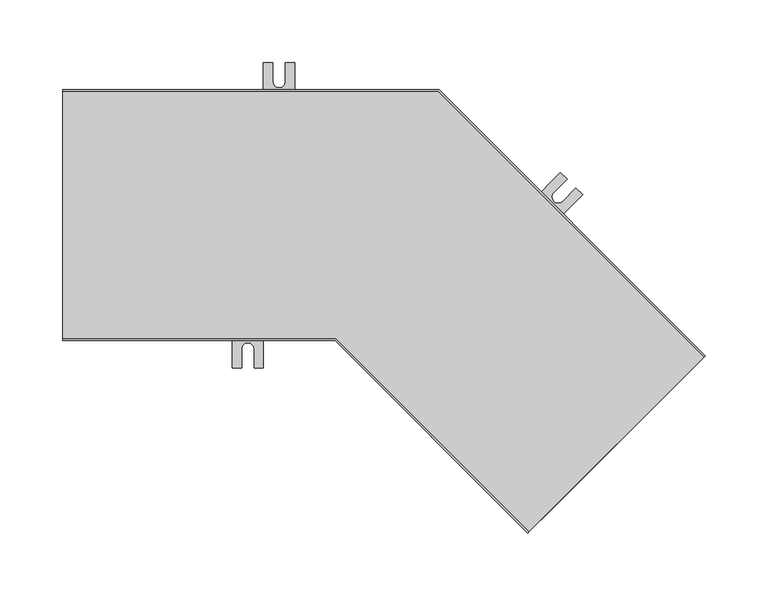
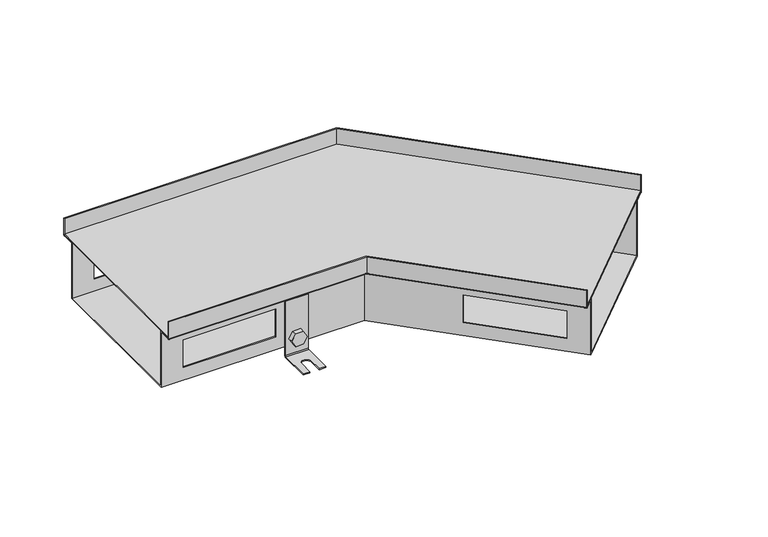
"""IFC4 building model written with IfcOpenShell, lengths in millimetres: proxy geometry, TECHNO_Угловой элемент_KVU : 200_085_135°."""

import ifcopenshell
import ifcopenshell.guid

model = None  # the IFC model being written
_history = None  # IfcOwnerHistory: only IFC2X3 demands one
_inside = {}  # id of a spatial element -> (the spatial element, [elements in it])
_under = {}  # id of a project, library or spatial element -> (it, [spatial elements below it])
_declared = {}  # id of a project -> (the project, [libraries it declares])
_typed = {}  # id of a type object -> (the type object, [elements of that type])
_made_of = {}  # id of a material, layer set ... -> (it, [elements and type objects made of it])


def new_model(schema):
    """Start an empty IFC model of exactly this schema.

    Asked for "IFC4X3", IfcOpenShell would pick the latest addendum, in which some entities
    have other attributes; the version numbers below select the first issue.
    IFC2X3 requires an IfcOwnerHistory on every rooted entity: one is made here for all.
    """
    global model, _history
    if schema == "IFC4X3":
        model = ifcopenshell.file(schema_version=(4, 3, 0, 0))
    else:
        model = ifcopenshell.file(schema=schema)
    _inside.clear()
    _under.clear()
    _declared.clear()
    _typed.clear()
    _made_of.clear()
    _history = None
    if model.schema == "IFC2X3":
        org = make("IfcOrganization", Name="unknown")
        user = make(
            "IfcPersonAndOrganization",
            ThePerson=make("IfcPerson", FamilyName="unknown"),
            TheOrganization=org,
        )
        app = make(
            "IfcApplication",
            ApplicationDeveloper=org,
            Version="unknown",
            ApplicationFullName="unknown",
            ApplicationIdentifier="unknown",
        )
        _history = make(
            "IfcOwnerHistory",
            OwningUser=user,
            OwningApplication=app,
            ChangeAction="ADDED",
            CreationDate=0,
        )
    return model


def make(cls, **values):
    """One entity of the class cls with the attributes given. An attribute that is None is left unset."""
    return model.create_entity(
        cls, **{name: value for name, value in values.items() if value is not None}
    )


def rooted(cls, **values):
    """An entity with a GlobalId (a new one), such as an element, a storey or a relation."""
    return make(cls, GlobalId=ifcopenshell.guid.new(), OwnerHistory=_history, **values)


def si_unit(unit_type, name, prefix=None):
    """IfcSIUnit, for example si_unit("LENGTHUNIT", "METRE", prefix="MILLI")."""
    return make("IfcSIUnit", UnitType=unit_type, Prefix=prefix, Name=name)


def assignment(units):
    """IfcUnitAssignment: the units of a project."""
    return None if units is None else make("IfcUnitAssignment", Units=units)


def point(xyz):
    """IfcCartesianPoint."""
    return None if xyz is None else make("IfcCartesianPoint", Coordinates=xyz)


def direction(xyz):
    """IfcDirection."""
    return None if xyz is None else make("IfcDirection", DirectionRatios=xyz)


def frame(location, z_axis=None, x_axis=None):
    """IfcAxis2Placement3D, a coordinate frame: its origin and axes. An axis left out is left unset."""
    return make(
        "IfcAxis2Placement3D",
        Location=point(location),
        Axis=direction(z_axis),
        RefDirection=direction(x_axis),
    )


def frame_2d(location, x_axis=None):
    """IfcAxis2Placement2D, a coordinate frame in the plane: its origin and x axis."""
    return make(
        "IfcAxis2Placement2D", Location=point(location), RefDirection=direction(x_axis)
    )


def origin():
    """The frame at (0, 0, 0) with its axes left unset."""
    return frame((0.0, 0.0, 0.0))


def place(relative_to, where):
    """IfcLocalPlacement: puts the frame where relative to a parent placement (None: the world)."""
    return make(
        "IfcLocalPlacement", PlacementRelTo=relative_to, RelativePlacement=where
    )


def context(
    kind, dimensions, precision=None, world=None, true_north=None, identifier=None
):
    """IfcGeometricRepresentationContext, for example the 3D "Model" context."""
    return make(
        "IfcGeometricRepresentationContext",
        ContextIdentifier=identifier,
        ContextType=kind,
        CoordinateSpaceDimension=dimensions,
        Precision=precision,
        WorldCoordinateSystem=world,
        TrueNorth=true_north,
    )


def project(units=None, contexts=None):
    """IfcProject with its units and contexts."""
    return rooted(
        "IfcProject",
        Name="project",
        RepresentationContexts=contexts,
        UnitsInContext=assignment(units),
    )


def spatial(cls, under=None, at=None, **own):
    """A site, building, storey or space (cls), placed at a placement, below another one or the project."""
    s = rooted(cls, ObjectPlacement=at, **own)
    if under is not None:
        _under.setdefault(under.id(), (under, []))[1].append(s)
    return s


def polyline(points):
    """IfcPolyline through the points."""
    return make("IfcPolyline", Points=[point(p) for p in points])


def circle_curve(where, radius):
    """IfcCircle in the frame where."""
    return make("IfcCircle", Position=where, Radius=radius)


def ellipse_curve(where, semi_axis1, semi_axis2):
    """IfcEllipse in the frame where."""
    return make(
        "IfcEllipse", Position=where, SemiAxis1=semi_axis1, SemiAxis2=semi_axis2
    )


def trimmed(basis, trim1, trim2, sense, master):
    """IfcTrimmedCurve: the piece of a basis curve between two trims."""
    return make(
        "IfcTrimmedCurve",
        BasisCurve=basis,
        Trim1=trim1,
        Trim2=trim2,
        SenseAgreement=sense,
        MasterRepresentation=master,
    )


def segment(curve, same_sense, transition):
    """IfcCompositeCurveSegment."""
    return make(
        "IfcCompositeCurveSegment",
        Transition=transition,
        SameSense=same_sense,
        ParentCurve=curve,
    )


def composite_curve(segments, self_intersect=None):
    """IfcCompositeCurve: segments joined end to end."""
    return make("IfcCompositeCurve", Segments=segments, SelfIntersect=self_intersect)


def outline(outer, holes=None, kind="AREA"):
    """IfcArbitraryClosedProfileDef: a profile drawn as a closed curve; with holes, ...WithVoids."""
    if holes is None:
        return make("IfcArbitraryClosedProfileDef", ProfileType=kind, OuterCurve=outer)
    return make(
        "IfcArbitraryProfileDefWithVoids",
        ProfileType=kind,
        OuterCurve=outer,
        InnerCurves=holes,
    )


def extrude(swept, where, along, depth):
    """IfcExtrudedAreaSolid: the profile swept, set in the frame where, extruded along a direction by depth."""
    return make(
        "IfcExtrudedAreaSolid",
        SweptArea=swept,
        Position=where,
        ExtrudedDirection=direction(along),
        Depth=depth,
    )


def shape(context_of_items, identifier, shape_type, items):
    """IfcShapeRepresentation: the items that make up one representation, for example the "Body"."""
    return make(
        "IfcShapeRepresentation",
        ContextOfItems=context_of_items,
        RepresentationIdentifier=identifier,
        RepresentationType=shape_type,
        Items=items,
    )


def source(mapping_origin, context_of_items, identifier, shape_type, items):
    """IfcRepresentationMap: a shape defined once, which mapped items show again and again."""
    return make(
        "IfcRepresentationMap",
        MappingOrigin=mapping_origin,
        MappedRepresentation=shape(context_of_items, identifier, shape_type, items),
    )


def transform(
    local_origin,
    x_axis=None,
    y_axis=None,
    z_axis=None,
    scale=None,
    scale2=None,
    scale3=None,
    uniform=True,
):
    """IfcCartesianTransformationOperator3D, or its non-uniform kind. x_axis, y_axis, z_axis: its Axis1, 2, 3."""
    if uniform:
        return make(
            "IfcCartesianTransformationOperator3D",
            Axis1=direction(x_axis),
            Axis2=direction(y_axis),
            LocalOrigin=point(local_origin),
            Scale=scale,
            Axis3=direction(z_axis),
        )
    return make(
        "IfcCartesianTransformationOperator3DnonUniform",
        Axis1=direction(x_axis),
        Axis2=direction(y_axis),
        LocalOrigin=point(local_origin),
        Scale=scale,
        Axis3=direction(z_axis),
        Scale2=scale2,
        Scale3=scale3,
    )


def mapped(mapping_source, mapping_target):
    """IfcMappedItem: shows the shape of a source again, moved by a transform."""
    return make(
        "IfcMappedItem", MappingSource=mapping_source, MappingTarget=mapping_target
    )


def made_of(thing, what):
    """Note that an element or type object is made of a material, layer set ...; save() writes the relation."""
    if what is not None:
        _made_of.setdefault(what.id(), (what, []))[1].append(thing)
    return thing


def element(
    cls,
    number,
    at=None,
    inside=None,
    cuts=None,
    type_object=None,
    material=None,
    context=None,
    identifier="Body",
    shape_type=None,
    held_by="IfcProductDefinitionShape",
    body=None,
    shapes=None,
    **own,
):
    """One element of the class cls, such as IfcWall. Its Tag is "e" and its number.

    at: its placement. inside: the storey or other place that contains it. cuts: it is an
    opening in that element (IfcRelVoidsElement). A single representation is given by context,
    identifier, shape_type and body (its items); several are given by shapes. held_by: the class
    of the entity that holds the representations. save() writes the other relations.
    """
    e = rooted(cls, Tag="e%d" % number, ObjectPlacement=at, **own)
    if body is not None:
        shapes = [shape(context, identifier, shape_type, body)]
    if shapes is not None:
        e.Representation = make(held_by, Representations=shapes)
    if inside is not None:
        _inside.setdefault(inside.id(), (inside, []))[1].append(e)
    if cuts is not None:
        rooted(
            "IfcRelVoidsElement", RelatingBuildingElement=cuts, RelatedOpeningElement=e
        )
    if type_object is not None:
        _typed.setdefault(type_object.id(), (type_object, []))[1].append(e)
    return made_of(e, material)


def aggregate(whole, parts):
    """IfcRelAggregates: a whole, such as a stair, and the parts it consists of."""
    return rooted("IfcRelAggregates", RelatingObject=whole, RelatedObjects=parts)


def save(model, path):
    """Write the relations noted so far, then the file.

    IfcRelAggregates (storeys below a building ...), IfcRelContainedInSpatialStructure (elements
    in a storey), IfcRelDefinesByType, IfcRelAssociatesMaterial and IfcRelDeclares: one each for
    every whole, place, type object, material and project.
    """
    for whole, parts in _under.values():
        aggregate(whole, parts)
    for where, things in _inside.values():
        rooted(
            "IfcRelContainedInSpatialStructure",
            RelatedElements=things,
            RelatingStructure=where,
        )
    for kind, things in _typed.values():
        rooted("IfcRelDefinesByType", RelatedObjects=things, RelatingType=kind)
    for what, things in _made_of.values():
        rooted("IfcRelAssociatesMaterial", RelatedObjects=things, RelatingMaterial=what)
    for by, libraries in _declared.values():
        rooted("IfcRelDeclares", RelatingContext=by, RelatedDefinitions=libraries)
    model.write(path)


def plane_surface(at):
    """IfcPlane: the flat surface through the origin of the frame at, square to its z axis."""
    return make("IfcPlane", Position=at)


def cylinder_surface(at, radius):
    """IfcCylindricalSurface: all points at the distance radius from the z axis of the frame at."""
    return make("IfcCylindricalSurface", Position=at, Radius=radius)


def revolved_surface(curve, axis_point, axis_direction):
    """IfcSurfaceOfRevolution: the curve turned about the line through axis_point along axis_direction."""
    return make(
        "IfcSurfaceOfRevolution",
        SweptCurve=make("IfcArbitraryOpenProfileDef", ProfileType="CURVE", Curve=curve),
        AxisPosition=make("IfcAxis1Placement", Location=point(axis_point), Axis=direction(axis_direction)),
    )


def advanced_brep(points, edges, surfaces, faces):
    """IfcAdvancedBrep: a solid bounded by faces that lie on surfaces and meet in shared edges.

    An edge is (start, end): straight between two places in points (the first is 0);
    or (start, end, curve); or (start, end, curve, False) where it runs against its curve.
    A face is (place in surfaces, loops), or (place, loops, False) where it looks against
    its surface's normal. A loop lists edges by number (the first is 1), with a minus sign
    where the edge is run from its end to its start. The first loop is the outer one.
    """
    corners = [point(p) for p in points]
    vertices = [make("IfcVertexPoint", VertexGeometry=c) for c in corners]
    made = []
    for start, end, *more in edges:
        made.append(
            make(
                "IfcEdgeCurve",
                EdgeStart=vertices[start],
                EdgeEnd=vertices[end],
                EdgeGeometry=more[0] if more else make("IfcPolyline", Points=[corners[start], corners[end]]),
                SameSense=more[1] if len(more) > 1 else True,
            )
        )
    hull = []
    for where, loops, *sense in faces:
        bounds = []
        for j, loop in enumerate(loops):
            ring = [make("IfcOrientedEdge", EdgeElement=made[abs(k) - 1], Orientation=k > 0) for k in loop]
            bounds.append(
                make(
                    "IfcFaceOuterBound" if j == 0 else "IfcFaceBound",
                    Bound=make("IfcEdgeLoop", EdgeList=ring),
                    Orientation=True,
                )
            )
        hull.append(make("IfcAdvancedFace", Bounds=bounds, FaceSurface=surfaces[where], SameSense=sense[0] if sense else True))
    return make("IfcAdvancedBrep", Outer=make("IfcClosedShell", CfsFaces=hull))


def mechanical_equipment_570afbbc(model_context):
    return source(origin(), model_context, "Body", "SolidModel", [
        extrude(outline(composite_curve([segment(trimmed(circle_curve(frame_2d((0.0, -7.4999999)), 7.5), [point((0.0, -15.0))], [point((0.0, 0.0))], False, "CARTESIAN"), True, "CONTINUOUS"), segment(trimmed(circle_curve(frame_2d((0.0, -7.4999999)), 7.5), [point((0.0, 0.0))], [point((0.0, -15.0))], False, "CARTESIAN"), True, "CONTINUOUS")], self_intersect=False)), frame((370.6399674, -55.6342025, -75.5), z_axis=(0.7071067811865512, 0.7071067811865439, 0.0), x_axis=(0.0, 0.0, 1.0)), (0.0, 0.0, 1.0), 1.5),
        extrude(outline(polyline([(0.0, 0.0), (8.6602541, 0.0), (12.9903811, -7.5), (8.6602541, -15.0), (0.0, -15.0), (-4.330127, -7.5), (0.0, 0.0)])), frame((354.7581695, -48.66195, -75.5), z_axis=(0.7071067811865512, 0.7071067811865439, 0.0), x_axis=(0.3535533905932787, -0.3535533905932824, -0.8660254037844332)), (0.0, 0.0, 1.0), 5.1),
        advanced_brep(
        [(373.3269732, -60.0182646, -30.5), (373.3269732, -60.0182646, -93.5), (372.7612878, -60.58395, -94.3), (349.426764, -83.9184738, -94.3), (349.426764, -83.9184738, -95.5), (372.7612878, -60.58395, -95.5), (374.1755013, -59.1697364, -93.5), (374.1755013, -59.1697364, -30.5), (355.6493037, -42.3405951, -30.5), (356.4978318, -41.4920669, -30.5), (356.4978318, -41.4920669, -93.5), (355.0836183, -42.9062805, -95.5), (331.7490945, -66.2408043, -95.5), (331.7490945, -66.2408043, -94.3), (355.0836183, -42.9062805, -94.3), (355.6493037, -42.3405951, -93.5), (337.0523953, -71.5441051, -94.3), (347.6589971, -60.9375034, -94.3), (354.7300649, -68.0085712, -94.3), (344.1234631, -78.6151729, -94.3), (344.1234631, -78.6151729, -95.5), (337.0523953, -71.5441051, -95.5), (354.7300649, -68.0085712, -95.5), (347.6589971, -60.9375034, -95.5)],
        [
            (0, 1),
            (1, 2, circle_curve(frame((372.7612878, -60.58395, -93.5), z_axis=(-0.7071067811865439, 0.7071067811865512, 0.0), x_axis=(-0.7071067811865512, -0.7071067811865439, 0.0)), 0.8)),
            (2, 3),
            (3, 4),
            (4, 5),
            (5, 6, circle_curve(frame((372.7612878, -60.58395, -93.5), z_axis=(0.7071067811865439, -0.7071067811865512, 0.0), x_axis=(-0.7071067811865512, -0.7071067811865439, 0.0)), 2.0)),
            (6, 7),
            (7, 0),
            (8, 9),
            (9, 10),
            (10, 11, circle_curve(frame((355.0836183, -42.9062805, -93.5), z_axis=(-0.7071067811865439, 0.7071067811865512, 0.0), x_axis=(-0.7071067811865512, -0.7071067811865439, 0.0)), 2.0)),
            (11, 12),
            (12, 13),
            (13, 14),
            (14, 15, circle_curve(frame((355.0836183, -42.9062805, -93.5), z_axis=(0.7071067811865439, -0.7071067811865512, 0.0), x_axis=(-0.7071067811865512, -0.7071067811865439, 0.0)), 0.8)),
            (15, 8),
            (0, 8),
            (15, 1),
            (14, 2),
            (13, 16),
            (16, 17),
            (17, 18, circle_curve(frame((351.194531, -64.4730373, -94.3), z_axis=(0.0, 0.0, -1.0), x_axis=(0.7071067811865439, -0.7071067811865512, 0.0)), 5.0)),
            (18, 19),
            (19, 3),
            (19, 20),
            (20, 4),
            (12, 21),
            (21, 16),
            (20, 22),
            (22, 23, circle_curve(frame((351.194531, -64.4730373, -95.5), z_axis=(0.0, 0.0, 1.0), x_axis=(0.7071067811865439, -0.7071067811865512, 0.0)), 5.0)),
            (23, 21),
            (11, 5),
            (10, 6),
            (9, 7),
            (23, 17),
            (18, 22),
        ],
        [
            plane_surface(frame((373.3269732, -60.0182646, -30.5), z_axis=(0.7071067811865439, -0.7071067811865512, 0.0), x_axis=(0.0, 0.0, -1.0))),
            plane_surface(frame((355.6493037, -42.3405951, -30.5), z_axis=(-0.7071067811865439, 0.7071067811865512, 0.0), x_axis=(0.0, 0.0, 1.0))),
            plane_surface(frame((373.3269732, -60.0182646, -30.5), z_axis=(-0.7071067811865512, -0.7071067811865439, 0.0), x_axis=(-0.7071067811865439, 0.7071067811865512, 0.0))),
            revolved_surface(polyline([(354.51793287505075, -43.47196592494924, -93.5), (372.19560237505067, -61.149635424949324, -93.5)]), (355.0836183, -42.9062805, -93.5), (-0.7071067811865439, 0.7071067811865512, 0.0)),
            plane_surface(frame((372.7612878, -60.58395, -94.3), z_axis=(0.0, 0.0, 1.0), x_axis=(-0.7071067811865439, 0.7071067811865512, 0.0))),
            plane_surface(frame((349.426764, -83.9184738, -94.3), z_axis=(-0.7071067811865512, -0.7071067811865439, 0.0), x_axis=(-0.7071067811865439, 0.7071067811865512, 0.0))),
            plane_surface(frame((349.426764, -83.9184738, -95.5), z_axis=(0.0, 0.0, -1.0), x_axis=(-0.7071067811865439, 0.7071067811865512, 0.0))),
            cylinder_surface(frame((355.0836183, -42.9062805, -93.5), z_axis=(0.7071067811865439, -0.7071067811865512, 0.0), x_axis=(-0.7071067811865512, -0.7071067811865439, 0.0)), 2.0),
            plane_surface(frame((374.1755013, -59.1697364, -93.5), z_axis=(0.7071067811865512, 0.7071067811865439, 0.0), x_axis=(-0.7071067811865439, 0.7071067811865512, 0.0))),
            plane_surface(frame((374.1755013, -59.1697364, -30.5), z_axis=(0.0, 0.0, 1.0), x_axis=(-0.7071067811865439, 0.7071067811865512, 0.0))),
            plane_surface(frame((347.6589971, -60.9375034, -94.3), z_axis=(0.7071067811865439, -0.7071067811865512, 0.0), x_axis=(0.0, 0.0, -1.0))),
            plane_surface(frame((344.1234631, -78.6151729, -94.3), z_axis=(-0.707106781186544, 0.7071067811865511, 0.0), x_axis=(0.0, 0.0, -1.0))),
            revolved_surface(polyline([(354.7300649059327, -68.00857120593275, -94.3), (354.7300649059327, -68.00857120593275, -95.5)]), (351.194531, -64.4730373, -95.5), (0.0, 0.0, 1.0)),
        ],
        [
            (0, [[1, 2, 3, 4, 5, 6, 7, 8]]),
            (1, [[9, 10, 11, 12, 13, 14, 15, 16]]),
            (2, [[-1, 17, -16, 18]]),
            (3, [[-2, -18, -15, 19]]),
            (4, [[-3, -19, -14, 20, 21, 22, 23, 24]]),
            (5, [[-4, -24, 25, 26]]),
            (5, [[-13, 27, 28, -20]]),
            (6, [[-5, -26, 29, 30, 31, -27, -12, 32]]),
            (7, [[-6, -32, -11, 33]]),
            (8, [[-7, -33, -10, 34]]),
            (9, [[-8, -34, -9, -17]]),
            (10, [[35, -21, -28, -31]]),
            (11, [[36, -29, -25, -23]]),
            (12, [[-35, -30, -36, -22]]),
        ],
    ),
        extrude(outline(composite_curve([segment(trimmed(circle_curve(frame_2d((0.0, -7.5)), 7.5), [point((0.0, -15.0))], [point((0.0, 0.0))], False, "CARTESIAN"), True, "CONTINUOUS"), segment(trimmed(circle_curve(frame_2d((0.0, -7.5)), 7.5), [point((0.0, 0.0))], [point((0.0, -15.0))], False, "CARTESIAN"), True, "CONTINUOUS")], self_intersect=False)), frame((374.3876334, 4.6820059, -75.5), z_axis=(0.7071067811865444, 0.7071067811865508, 0.0), x_axis=(0.0, 0.0, -1.0)), (0.0, 0.0, 1.0), 1.5),
        extrude(outline(polyline([(0.0, 0.0), (4.330127, -7.5), (0.0, -15.0), (-8.660254, -15.0), (-12.990381, -7.5), (-8.6602541, 0.0), (0.0, 0.0)])), frame((387.7238469, -4.835831, -75.5), z_axis=(0.7071067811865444, 0.7071067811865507, 0.0), x_axis=(0.35355339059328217, -0.35355339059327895, 0.8660254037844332)), (0.0, 0.0, 1.0), 5.1),
        advanced_brep(
        [(372.7612878, 10.1267281, -30.5), (372.7612878, 10.1267281, -93.5), (373.3269732, 10.6924135, -94.3), (396.661497, 34.0269373, -94.3), (396.661497, 34.0269373, -95.5), (373.3269732, 10.6924135, -95.5), (371.9127596, 9.2782, -93.5), (371.9127596, 9.2782, -30.5), (390.4389573, -7.5509414, -30.5), (389.5904292, -8.3994696, -30.5), (389.5904292, -8.3994696, -93.5), (391.0046427, -6.985256, -95.5), (414.3391665, 16.3492678, -95.5), (414.3391665, 16.3492678, -94.3), (391.0046427, -6.985256, -94.3), (390.4389573, -7.5509414, -93.5), (409.0358657, 21.6525686, -94.3), (398.4292639, 11.0459669, -94.3), (391.3581961, 18.1170347, -94.3), (401.9647978, 28.7236365, -94.3), (401.9647978, 28.7236365, -95.5), (409.0358657, 21.6525686, -95.5), (391.3581961, 18.1170347, -95.5), (398.4292639, 11.0459669, -95.5)],
        [
            (0, 1),
            (1, 2, circle_curve(frame((373.3269732, 10.6924135, -93.5), z_axis=(0.7071067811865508, -0.7071067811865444, 0.0), x_axis=(0.7071067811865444, 0.7071067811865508, 0.0)), 0.8)),
            (2, 3),
            (3, 4),
            (4, 5),
            (5, 6, circle_curve(frame((373.3269732, 10.6924135, -93.5), z_axis=(-0.7071067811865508, 0.7071067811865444, 0.0), x_axis=(0.7071067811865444, 0.7071067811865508, 0.0)), 2.0)),
            (6, 7),
            (7, 0),
            (8, 9),
            (9, 10),
            (10, 11, circle_curve(frame((391.0046427, -6.985256, -93.5), z_axis=(0.7071067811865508, -0.7071067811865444, 0.0), x_axis=(0.7071067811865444, 0.7071067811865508, 0.0)), 2.0)),
            (11, 12),
            (12, 13),
            (13, 14),
            (14, 15, circle_curve(frame((391.0046427, -6.985256, -93.5), z_axis=(-0.7071067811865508, 0.7071067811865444, 0.0), x_axis=(0.7071067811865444, 0.7071067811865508, 0.0)), 0.8)),
            (15, 8),
            (0, 8),
            (15, 1),
            (14, 2),
            (13, 16),
            (16, 17),
            (17, 18, circle_curve(frame((394.89373, 14.5815008, -94.3), z_axis=(0.0, 0.0, -1.0), x_axis=(-0.7071067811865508, 0.7071067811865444, 0.0)), 5.0)),
            (18, 19),
            (19, 3),
            (19, 20),
            (20, 4),
            (12, 21),
            (21, 16),
            (20, 22),
            (22, 23, circle_curve(frame((394.89373, 14.5815008, -95.5), z_axis=(0.0, 0.0, 1.0), x_axis=(-0.7071067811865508, 0.7071067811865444, 0.0)), 5.0)),
            (23, 21),
            (11, 5),
            (10, 6),
            (9, 7),
            (23, 17),
            (18, 22),
        ],
        [
            plane_surface(frame((372.7612878, 10.1267281, -30.5), z_axis=(-0.7071067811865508, 0.7071067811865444, 0.0), x_axis=(0.0, 0.0, -1.0))),
            plane_surface(frame((390.4389573, -7.5509414, -30.5), z_axis=(0.7071067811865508, -0.7071067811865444, 0.0), x_axis=(0.0, 0.0, 1.0))),
            plane_surface(frame((372.7612878, 10.1267281, -30.5), z_axis=(0.7071067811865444, 0.7071067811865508, 0.0), x_axis=(0.7071067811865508, -0.7071067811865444, 0.0))),
            revolved_surface(polyline([(391.5703281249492, -6.419570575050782, -93.5), (373.8926586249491, 11.25809892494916, -93.5)]), (391.0046427, -6.985256, -93.5), (0.7071067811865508, -0.7071067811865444, 0.0)),
            plane_surface(frame((373.3269732, 10.6924135, -94.3), z_axis=(0.0, 0.0, 1.0000000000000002), x_axis=(0.7071067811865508, -0.7071067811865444, 0.0))),
            plane_surface(frame((396.661497, 34.0269373, -94.3), z_axis=(0.7071067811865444, 0.7071067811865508, 0.0), x_axis=(0.7071067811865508, -0.7071067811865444, 0.0))),
            plane_surface(frame((396.661497, 34.0269373, -95.5), z_axis=(0.0, 0.0, -1.0000000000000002), x_axis=(0.7071067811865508, -0.7071067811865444, 0.0))),
            cylinder_surface(frame((391.0046427, -6.985256, -93.5), z_axis=(-0.7071067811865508, 0.7071067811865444, 0.0), x_axis=(0.7071067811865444, 0.7071067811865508, 0.0)), 2.0),
            plane_surface(frame((371.9127596, 9.2782, -93.5), z_axis=(-0.7071067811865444, -0.7071067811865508, 0.0), x_axis=(0.7071067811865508, -0.7071067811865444, 0.0))),
            plane_surface(frame((371.9127596, 9.2782, -30.5), z_axis=(0.0, 0.0, 1.0000000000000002), x_axis=(0.7071067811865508, -0.7071067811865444, 0.0))),
            plane_surface(frame((398.4292639, 11.0459669, -94.3), z_axis=(-0.7071067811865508, 0.7071067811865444, 0.0), x_axis=(0.0, 0.0, -1.0))),
            plane_surface(frame((401.9647978, 28.7236365, -94.3), z_axis=(0.7071067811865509, -0.7071067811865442, 0.0), x_axis=(0.0, 0.0, -1.0))),
            revolved_surface(polyline([(391.35819609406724, 18.117034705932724, -94.3), (391.35819609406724, 18.117034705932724, -95.5)]), (394.89373, 14.5815008, -95.5), (0.0, 0.0, 1.0)),
        ],
        [
            (0, [[1, 2, 3, 4, 5, 6, 7, 8]]),
            (1, [[9, 10, 11, 12, 13, 14, 15, 16]]),
            (2, [[-1, 17, -16, 18]]),
            (3, [[-2, -18, -15, 19]]),
            (4, [[-3, -19, -14, 20, 21, 22, 23, 24]]),
            (5, [[-4, -24, 25, 26]]),
            (5, [[-13, 27, 28, -20]]),
            (6, [[-5, -26, 29, 30, 31, -27, -12, 32]]),
            (7, [[-6, -32, -11, 33]]),
            (8, [[-7, -33, -10, 34]]),
            (9, [[-8, -34, -9, -17]]),
            (10, [[35, -21, -28, -31]]),
            (11, [[36, -29, -25, -23]]),
            (12, [[-35, -30, -36, -22]]),
        ],
    ),
        extrude(outline(composite_curve([segment(trimmed(circle_curve(frame_2d((-75.5, 172.5)), 7.5), [point((-75.5, 165.0))], [point((-75.5, 180.0))], False, "CARTESIAN"), True, "CONTINUOUS"), segment(trimmed(circle_curve(frame_2d((-75.5, 172.5)), 7.5), [point((-75.5, 180.0))], [point((-75.5, 165.0))], False, "CARTESIAN"), True, "CONTINUOUS")], self_intersect=False)), frame((0.0, 85.2, 0.0), z_axis=(0.0, 1.0, 0.0), x_axis=(0.0, 0.0, 1.0)), (0.0, 0.0, 1.0), 1.5),
        extrude(outline(polyline([(-75.5, 163.839746), (-83.0, 168.169873), (-83.0, 176.830127), (-75.5, 181.160254), (-68.0, 176.830127), (-68.0, 168.169873), (-75.5, 163.839746)])), frame((0.0, 87.9, 0.0), z_axis=(0.0, 1.0, 0.0), x_axis=(0.0, 0.0, 1.0)), (0.0, 0.0, 1.0), 5.1),
        advanced_brep(
        [(185.0, 87.9, -30.5), (185.0, 86.7, -30.5), (185.0, 86.7, -93.5), (185.0, 88.7, -95.5), (185.0, 121.7, -95.5), (185.0, 121.7, -94.3), (185.0, 88.7, -94.3), (185.0, 87.9, -93.5), (160.0, 87.9, -30.5), (160.0, 87.9, -93.5), (160.0, 88.7, -94.3), (160.0, 121.7, -94.3), (160.0, 121.7, -95.5), (160.0, 88.7, -95.5), (160.0, 86.7, -93.5), (160.0, 86.7, -30.5), (177.5, 121.7, -94.3), (177.5, 106.7, -94.3), (167.5, 106.7, -94.3), (167.5, 121.7, -94.3), (167.5, 121.7, -95.5), (177.5, 121.7, -95.5), (167.5, 106.7, -95.5), (177.5, 106.7, -95.5)],
        [
            (0, 1),
            (1, 2),
            (2, 3, circle_curve(frame((185.0, 88.7, -93.5), z_axis=(1.0, 0.0, 0.0), x_axis=(0.0, 1.0, 0.0)), 2.0)),
            (3, 4),
            (4, 5),
            (5, 6),
            (6, 7, circle_curve(frame((185.0, 88.7, -93.5), z_axis=(-1.0, 0.0, 0.0), x_axis=(0.0, 1.0, 0.0)), 0.8)),
            (7, 0),
            (8, 9),
            (9, 10, circle_curve(frame((160.0, 88.7, -93.5), z_axis=(1.0, 0.0, 0.0), x_axis=(0.0, 1.0, 0.0)), 0.8)),
            (10, 11),
            (11, 12),
            (12, 13),
            (13, 14, circle_curve(frame((160.0, 88.7, -93.5), z_axis=(-1.0, 0.0, 0.0), x_axis=(0.0, 1.0, 0.0)), 2.0)),
            (14, 15),
            (15, 8),
            (7, 9),
            (8, 0),
            (6, 10),
            (5, 16),
            (16, 17),
            (17, 18, circle_curve(frame((172.5, 106.7, -94.3), z_axis=(0.0, 0.0, -1.0), x_axis=(1.0, 0.0, 0.0)), 5.0)),
            (18, 19),
            (19, 11),
            (19, 20),
            (20, 12),
            (4, 21),
            (21, 16),
            (3, 13),
            (20, 22),
            (22, 23, circle_curve(frame((172.5, 106.7, -95.5), z_axis=(0.0, 0.0, 1.0), x_axis=(1.0, 0.0, 0.0)), 5.0)),
            (23, 21),
            (2, 14),
            (1, 15),
            (18, 22),
            (23, 17),
        ],
        [
            plane_surface(frame((185.0, 87.9, -30.5), z_axis=(1.0, 0.0, 0.0), x_axis=(0.0, 0.0, -1.0))),
            plane_surface(frame((160.0, 87.9, -30.5), z_axis=(-1.0, 0.0, 0.0), x_axis=(0.0, 0.0, 1.0))),
            plane_surface(frame((185.0, 87.9, -30.5), z_axis=(0.0, 1.0, 0.0), x_axis=(-1.0, 0.0, 0.0))),
            revolved_surface(polyline([(160.0, 89.5, -93.5), (185.0, 89.5, -93.5)]), (160.0, 88.7, -93.5), (-1.0, 0.0, 0.0)),
            plane_surface(frame((185.0, 88.7, -94.3), z_axis=(0.0, 0.0, 1.0), x_axis=(-1.0, 0.0, 0.0))),
            plane_surface(frame((185.0, 121.7, -94.3), z_axis=(0.0, 1.0, 0.0), x_axis=(-1.0, 0.0, 0.0))),
            plane_surface(frame((185.0, 121.7, -95.5), z_axis=(0.0, 0.0, -1.0), x_axis=(-1.0, 0.0, 0.0))),
            cylinder_surface(frame((160.0, 88.7, -93.5), z_axis=(1.0, 0.0, 0.0), x_axis=(0.0, 1.0, 0.0)), 2.0),
            plane_surface(frame((185.0, 86.7, -93.5), z_axis=(0.0, -1.0, 0.0), x_axis=(-1.0, 0.0, 0.0))),
            plane_surface(frame((185.0, 86.7, -30.5), z_axis=(0.0, 0.0, 1.0), x_axis=(-1.0, 0.0, 0.0))),
            plane_surface(frame((167.5, 106.7, -94.3), z_axis=(1.0, 0.0, 0.0), x_axis=(0.0, 0.0, -1.0))),
            plane_surface(frame((177.5, 121.7, -94.3), z_axis=(-1.0, 0.0, 0.0), x_axis=(0.0, 0.0, -1.0))),
            revolved_surface(polyline([(177.5, 106.7, -94.3), (177.5, 106.7, -95.5)]), (172.5, 106.7, -95.5), (0.0, 0.0, 1.0)),
        ],
        [
            (0, [[1, 2, 3, 4, 5, 6, 7, 8]]),
            (1, [[9, 10, 11, 12, 13, 14, 15, 16]]),
            (2, [[17, -9, 18, -8]]),
            (3, [[19, -10, -17, -7]]),
            (4, [[20, 21, 22, 23, 24, -11, -19, -6]]),
            (5, [[-24, 25, 26, -12]]),
            (5, [[27, 28, -20, -5]]),
            (6, [[29, -13, -26, 30, 31, 32, -27, -4]]),
            (7, [[33, -14, -29, -3]]),
            (8, [[34, -15, -33, -2]]),
            (9, [[-18, -16, -34, -1]]),
            (10, [[-30, -25, -23, 35]]),
            (11, [[-21, -28, -32, 36]]),
            (12, [[-22, -36, -31, -35]]),
        ],
    ),
        extrude(outline(composite_curve([segment(trimmed(circle_curve(frame_2d((-75.5, 147.5)), 7.5), [point((-75.5, 140.0))], [point((-75.5, 155.0))], False, "CARTESIAN"), True, "CONTINUOUS"), segment(trimmed(circle_curve(frame_2d((-75.5, 147.5)), 7.5), [point((-75.5, 155.0))], [point((-75.5, 140.0))], False, "CARTESIAN"), True, "CONTINUOUS")], self_intersect=False)), frame((0.0, -86.7, 0.0), z_axis=(0.0, 1.0, 0.0), x_axis=(0.0, 0.0, 1.0)), (0.0, 0.0, 1.0), 1.5),
        extrude(outline(polyline([(-75.5, 138.839746), (-83.0, 143.169873), (-83.0, 151.830127), (-75.5, 156.160254), (-68.0, 151.830127), (-68.0, 143.169873), (-75.5, 138.839746)])), frame((0.0, -93.0, 0.0), z_axis=(0.0, 1.0, 0.0), x_axis=(0.0, 0.0, 1.0)), (0.0, 0.0, 1.0), 5.1),
        advanced_brep(
        [(160.0, -87.9, -30.5), (160.0, -87.9, -93.5), (160.0, -88.7, -94.3), (160.0, -121.7, -94.3), (160.0, -121.7, -95.5), (160.0, -88.7, -95.5), (160.0, -86.7, -93.5), (160.0, -86.7, -30.5), (135.0, -87.9, -30.5), (135.0, -86.7, -30.5), (135.0, -86.7, -93.5), (135.0, -88.7, -95.5), (135.0, -121.7, -95.5), (135.0, -121.7, -94.3), (135.0, -88.7, -94.3), (135.0, -87.9, -93.5), (142.5, -121.7, -94.3), (142.5, -106.7, -94.3), (152.5, -106.7, -94.3), (152.5, -121.7, -94.3), (152.5, -121.7, -95.5), (142.5, -121.7, -95.5), (152.5, -106.7, -95.5), (142.5, -106.7, -95.5)],
        [
            (0, 1),
            (1, 2, circle_curve(frame((160.0, -88.7, -93.5), z_axis=(-1.0, 0.0, 0.0), x_axis=(0.0, -1.0, 0.0)), 0.8)),
            (2, 3),
            (3, 4),
            (4, 5),
            (5, 6, circle_curve(frame((160.0, -88.7, -93.5), z_axis=(1.0, 0.0, 0.0), x_axis=(0.0, -1.0, 0.0)), 2.0)),
            (6, 7),
            (7, 0),
            (8, 9),
            (9, 10),
            (10, 11, circle_curve(frame((135.0, -88.7, -93.5), z_axis=(-1.0, 0.0, 0.0), x_axis=(0.0, -1.0, 0.0)), 2.0)),
            (11, 12),
            (12, 13),
            (13, 14),
            (14, 15, circle_curve(frame((135.0, -88.7, -93.5), z_axis=(1.0, 0.0, 0.0), x_axis=(0.0, -1.0, 0.0)), 0.8)),
            (15, 8),
            (0, 8),
            (15, 1),
            (14, 2),
            (13, 16),
            (16, 17),
            (17, 18, circle_curve(frame((147.5, -106.7, -94.3), z_axis=(0.0, 0.0, -1.0), x_axis=(1.0, 0.0, 0.0)), 5.0)),
            (18, 19),
            (19, 3),
            (19, 20),
            (20, 4),
            (12, 21),
            (21, 16),
            (20, 22),
            (22, 23, circle_curve(frame((147.5, -106.7, -95.5), z_axis=(0.0, 0.0, 1.0), x_axis=(1.0, 0.0, 0.0)), 5.0)),
            (23, 21),
            (11, 5),
            (10, 6),
            (9, 7),
            (23, 17),
            (18, 22),
        ],
        [
            plane_surface(frame((160.0, -87.9, -30.5), z_axis=(1.0, 0.0, 0.0), x_axis=(0.0, 0.0, -1.0))),
            plane_surface(frame((135.0, -87.9, -30.5), z_axis=(-1.0, 0.0, 0.0), x_axis=(0.0, 0.0, 1.0))),
            plane_surface(frame((160.0, -87.9, -30.5), z_axis=(0.0, -1.0, 0.0), x_axis=(-1.0, 0.0, 0.0))),
            revolved_surface(polyline([(135.0, -89.5, -93.5), (160.0, -89.5, -93.5)]), (135.0, -88.7, -93.5), (-1.0, 0.0, 0.0)),
            plane_surface(frame((160.0, -88.7, -94.3), z_axis=(0.0, 0.0, 1.0), x_axis=(-1.0, 0.0, 0.0))),
            plane_surface(frame((160.0, -121.7, -94.3), z_axis=(0.0, -1.0, 0.0), x_axis=(-1.0, 0.0, 0.0))),
            plane_surface(frame((160.0, -121.7, -95.5), z_axis=(0.0, 0.0, -1.0), x_axis=(-1.0, 0.0, 0.0))),
            cylinder_surface(frame((135.0, -88.7, -93.5), z_axis=(1.0, 0.0, 0.0), x_axis=(0.0, -1.0, 0.0)), 2.0),
            plane_surface(frame((160.0, -86.7, -93.5), z_axis=(0.0, 1.0, 0.0), x_axis=(-1.0, 0.0, 0.0))),
            plane_surface(frame((160.0, -86.7, -30.5), z_axis=(0.0, 0.0, 1.0), x_axis=(-1.0, 0.0, 0.0))),
            plane_surface(frame((142.5, -106.7, -94.3), z_axis=(1.0, 0.0, 0.0), x_axis=(0.0, 0.0, -1.0))),
            plane_surface(frame((152.5, -121.7, -94.3), z_axis=(-1.0, 0.0, 0.0), x_axis=(0.0, 0.0, -1.0))),
            revolved_surface(polyline([(152.5, -106.7, -94.3), (152.5, -106.7, -95.5)]), (147.5, -106.7, -95.5), (0.0, 0.0, 1.0)),
        ],
        [
            (0, [[1, 2, 3, 4, 5, 6, 7, 8]]),
            (1, [[9, 10, 11, 12, 13, 14, 15, 16]]),
            (2, [[-1, 17, -16, 18]]),
            (3, [[-2, -18, -15, 19]]),
            (4, [[-3, -19, -14, 20, 21, 22, 23, 24]]),
            (5, [[-4, -24, 25, 26]]),
            (5, [[-13, 27, 28, -20]]),
            (6, [[-5, -26, 29, 30, 31, -27, -12, 32]]),
            (7, [[-6, -32, -11, 33]]),
            (8, [[-7, -33, -10, 34]]),
            (9, [[-8, -34, -9, -17]]),
            (10, [[35, -21, -28, -31]]),
            (11, [[36, -29, -25, -23]]),
            (12, [[-35, -30, -36, -22]]),
        ],
    ),
        extrude(outline(polyline([(511.2835062, -112.9805625), (371.5592063, -252.7048625), (217.6543438, -98.8), (0.0, -98.8), (0.0, 98.8), (299.5029437, 98.8), (511.2835062, -112.9805625)])), frame((0.0, 0.0, -19.3), z_axis=(0.0, 0.0, 1.0), x_axis=(1.0, 0.0, 0.0)), (0.0, 0.0, 1.0), 1.2),
        advanced_brep(
        [(370.7106781, -253.5533906, -19.3), (371.5592063, -252.7048625, -20.5), (381.1758585, -243.0882102, -20.5), (381.1758585, -243.0882102, -85.0), (501.666854, -122.5972147, -85.0), (501.666854, -122.5972147, -20.5), (511.2835062, -112.9805625, -20.5), (512.1320344, -112.1320344, -19.3), (512.1320344, -112.1320344, 0.0), (511.2835062, -112.9805625, 0.0), (511.2835062, -112.9805625, -19.3), (501.666854, -122.5972147, -19.3), (500.8183259, -123.4457429, -20.5), (500.8183259, -123.4457429, -83.8), (382.0243866, -242.2396821, -83.8), (382.0243866, -242.2396821, -20.5), (381.1758585, -243.0882102, -19.3), (371.5592063, -252.7048625, -19.3), (371.5592063, -252.7048625, 0.0), (370.7106781, -253.5533906, 0.0), (0.0, -100.0, -19.3), (0.0, -100.0, 0.0), (0.0, -98.8, 0.0), (0.0, -98.8, -19.3), (0.0, -85.2, -19.3), (0.0, -84.0, -20.5), (0.0, -84.0, -83.8), (0.0, 84.0, -83.8), (0.0, 84.0, -20.5), (0.0, 85.2, -19.3), (0.0, 98.8, -19.3), (0.0, 98.8, 0.0), (0.0, 100.0, 0.0), (0.0, 100.0, -19.3), (0.0, 98.8, -20.5), (0.0, 85.2, -20.5), (0.0, 85.2, -85.0), (0.0, -85.2, -85.0), (0.0, -85.2, -20.5), (0.0, -98.8, -20.5), (217.6543438, -98.8, -20.5), (217.1572875, -100.0, -19.3), (217.6543438, -98.8, 0.0), (217.6543438, -98.8, -19.3), (223.2876482, -85.2, -85.0), (223.2876482, -85.2, -20.5), (24.0, -85.2, -38.0), (126.0, -85.2, -38.0), (126.0, -85.2, -70.0), (24.0, -85.2, -70.0), (223.7847045, -84.0, -20.5), (223.7847045, -84.0, -83.8), (126.0, -84.0, -38.0), (24.0, -84.0, -38.0), (24.0, -84.0, -70.0), (126.0, -84.0, -70.0), (223.2876482, -85.2, -19.3), (292.0804041, -153.9927558, -38.0), (364.2052957, -226.1176475, -38.0), (364.2052957, -226.1176475, -70.0), (292.0804041, -153.9927558, -70.0), (293.8696393, 85.2, -85.0), (293.372583, 84.0, -83.8), (365.0538239, -225.2691193, -38.0), (292.9289322, -153.1442277, -38.0), (292.9289322, -153.1442277, -70.0), (365.0538239, -225.2691193, -70.0), (217.1572875, -100.0, 0.0), (293.8696393, 85.2, -20.5), (484.6962912, -105.626652, -38.0), (412.5713996, -33.5017603, -38.0), (412.5713996, -33.5017603, -70.0), (484.6962912, -105.626652, -70.0), (299.5029437, 98.8, -20.5), (300.0, 100.0, -19.3), (300.0, 100.0, 0.0), (299.5029437, 98.8, 0.0), (299.5029437, 98.8, -19.3), (293.8696393, 85.2, -19.3), (293.372583, 84.0, -20.5), (411.7228714, -34.3502884, -38.0), (483.8477631, -106.4751801, -38.0), (483.8477631, -106.4751801, -70.0), (411.7228714, -34.3502884, -70.0), (126.0, 85.2, -38.0), (24.0, 85.2, -38.0), (24.0, 85.2, -70.0), (126.0, 85.2, -70.0), (24.0, 84.0, -38.0), (126.0, 84.0, -38.0), (126.0, 84.0, -70.0), (24.0, 84.0, -70.0)],
        [
            (0, 1, circle_curve(frame((371.5592063, -252.7048625, -19.3), z_axis=(0.7071067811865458, -0.7071067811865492, 0.0), x_axis=(-0.7071067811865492, -0.7071067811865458, 0.0)), 1.2)),
            (1, 2),
            (2, 3),
            (3, 4),
            (4, 5),
            (5, 6),
            (6, 7, circle_curve(frame((511.2835062, -112.9805625, -19.3), z_axis=(0.7071067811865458, -0.7071067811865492, 0.0), x_axis=(-0.7071067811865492, -0.7071067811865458, 0.0)), 1.2)),
            (7, 8),
            (8, 9),
            (9, 10),
            (10, 11),
            (11, 12, circle_curve(frame((501.666854, -122.5972147, -20.5), z_axis=(0.7071067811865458, -0.7071067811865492, 0.0), x_axis=(-0.7071067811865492, -0.7071067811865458, 0.0)), 1.2)),
            (12, 13),
            (13, 14),
            (14, 15),
            (15, 16, circle_curve(frame((381.1758585, -243.0882102, -20.5), z_axis=(0.7071067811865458, -0.7071067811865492, 0.0), x_axis=(-0.7071067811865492, -0.7071067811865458, 0.0)), 1.2)),
            (16, 17),
            (17, 18),
            (18, 19),
            (19, 0),
            (20, 21),
            (21, 22),
            (22, 23),
            (23, 24),
            (24, 25, circle_curve(frame((0.0, -85.2, -20.5), z_axis=(-1.0, 0.0, 0.0), x_axis=(0.0, -1.0, 0.0)), 1.2)),
            (25, 26),
            (26, 27),
            (27, 28),
            (28, 29, circle_curve(frame((0.0, 85.2, -20.5), z_axis=(-1.0, 0.0, 0.0), x_axis=(0.0, -1.0, 0.0)), 1.2)),
            (29, 30),
            (30, 31),
            (31, 32),
            (32, 33),
            (33, 34, circle_curve(frame((0.0, 98.8, -19.3), z_axis=(-1.0, 0.0, 0.0), x_axis=(0.0, -1.0, 0.0)), 1.2)),
            (34, 35),
            (35, 36),
            (36, 37),
            (37, 38),
            (38, 39),
            (39, 20, circle_curve(frame((0.0, -98.8, -19.3), z_axis=(-1.0, 0.0, 0.0), x_axis=(0.0, -1.0, 0.0)), 1.2)),
            (39, 40),
            (40, 41, ellipse_curve(frame((217.6543438, -98.8, -19.3), z_axis=(-0.9238795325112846, 0.38268343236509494, 0.0), x_axis=(0.3826834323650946, 0.9238795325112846, 0.0)), 1.2988706, 1.2)),
            (41, 20),
            (22, 42),
            (42, 43),
            (43, 23),
            (37, 44),
            (44, 45),
            (45, 38),
            (46, 47),
            (47, 48),
            (48, 49),
            (49, 46),
            (25, 50),
            (50, 51),
            (51, 26),
            (52, 53),
            (53, 54),
            (54, 55),
            (55, 52),
            (24, 56),
            (56, 50, ellipse_curve(frame((223.2876482, -85.2, -20.5), z_axis=(-0.9238795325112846, 0.38268343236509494, 0.0), x_axis=(0.3826834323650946, 0.9238795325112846, 0.0)), 1.2988706, 1.2)),
            (0, 41),
            (40, 1),
            (45, 2),
            (44, 3),
            (57, 58),
            (58, 59),
            (59, 60),
            (60, 57),
            (36, 61),
            (61, 4),
            (13, 62),
            (62, 27),
            (51, 14),
            (50, 15),
            (63, 64),
            (64, 65),
            (65, 66),
            (66, 63),
            (56, 16),
            (43, 17),
            (42, 18),
            (21, 67),
            (67, 19),
            (61, 68),
            (68, 5),
            (69, 70),
            (70, 71),
            (71, 72),
            (72, 69),
            (68, 35),
            (34, 73),
            (73, 6),
            (73, 74, ellipse_curve(frame((299.5029437, 98.8, -19.3), z_axis=(0.9238795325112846, -0.38268343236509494, 0.0), x_axis=(-0.38268343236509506, -0.9238795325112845, 0.0)), 1.2988706, 1.2)),
            (74, 7),
            (74, 75),
            (75, 8),
            (75, 32),
            (31, 76),
            (76, 9),
            (76, 77),
            (77, 10),
            (77, 30),
            (29, 78),
            (78, 11),
            (78, 79, ellipse_curve(frame((293.8696393, 85.2, -20.5), z_axis=(0.9238795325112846, -0.38268343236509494, 0.0), x_axis=(-0.38268343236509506, -0.9238795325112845, 0.0)), 1.2988706, 1.2)),
            (79, 12),
            (79, 62),
            (80, 81),
            (81, 82),
            (82, 83),
            (83, 80),
            (84, 85),
            (85, 86),
            (86, 87),
            (87, 84),
            (33, 74),
            (28, 79),
            (88, 89),
            (89, 90),
            (90, 91),
            (91, 88),
            (41, 67),
            (46, 53),
            (52, 47),
            (88, 85),
            (84, 89),
            (49, 54),
            (91, 86),
            (48, 55),
            (90, 87),
            (57, 64),
            (63, 58),
            (80, 70),
            (69, 81),
            (66, 59),
            (72, 82),
            (65, 60),
            (71, 83),
        ],
        [
            plane_surface(frame((441.4213562, -182.8427125, 0.0), z_axis=(0.7071067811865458, -0.7071067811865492, 0.0), x_axis=(0.0, 0.0, 1.0))),
            plane_surface(frame((0.0, 0.0, 0.0), z_axis=(-1.0, 0.0, 0.0), x_axis=(0.0, 0.0, 1.0))),
            cylinder_surface(frame((258.5786438, -98.8, -19.3), z_axis=(1.0, 0.0, 0.0), x_axis=(0.0, -1.0, 0.0)), 1.2),
            plane_surface(frame((217.6543438, -98.8, -19.3), z_axis=(0.0, 1.0, 0.0), x_axis=(-1.0, 0.0, 0.0))),
            plane_surface(frame((223.2876482, -85.2, -20.5), z_axis=(0.0, -1.0, 0.0), x_axis=(-1.0, 0.0, 0.0))),
            plane_surface(frame((223.7847045, -84.0, -83.8), z_axis=(0.0, 1.0, 0.0), x_axis=(-1.0, 0.0, 0.0))),
            cylinder_surface(frame((258.5786438, -85.2, -20.5), z_axis=(1.0, 0.0, 0.0), x_axis=(0.0, -1.0, 0.0)), 1.2),
            cylinder_surface(frame((371.5592063, -252.7048625, -19.3), z_axis=(0.7071067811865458, -0.7071067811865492, 0.0), x_axis=(-0.7071067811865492, -0.7071067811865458, 0.0)), 1.2),
            plane_surface(frame((371.5592063, -252.7048625, -20.5), z_axis=(0.0, 0.0, -1.0), x_axis=(-0.7071067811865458, 0.7071067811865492, 0.0))),
            plane_surface(frame((381.1758585, -243.0882102, -20.5), z_axis=(-0.7071067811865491, -0.7071067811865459, 0.0), x_axis=(-0.7071067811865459, 0.7071067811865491, 0.0))),
            plane_surface(frame((381.1758585, -243.0882102, -85.0), z_axis=(0.0, 0.0, -1.0), x_axis=(-0.7071067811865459, 0.7071067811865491, 0.0))),
            plane_surface(frame((500.8183259, -123.4457429, -83.8), z_axis=(0.0, 0.0, 1.0), x_axis=(-0.7071067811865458, 0.7071067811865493, 0.0))),
            plane_surface(frame((382.0243866, -242.2396821, -83.8), z_axis=(0.7071067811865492, 0.7071067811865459, 0.0), x_axis=(-0.7071067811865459, 0.7071067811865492, 0.0))),
            cylinder_surface(frame((381.1758585, -243.0882102, -20.5), z_axis=(0.7071067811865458, -0.7071067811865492, 0.0), x_axis=(-0.7071067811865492, -0.7071067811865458, 0.0)), 1.2),
            plane_surface(frame((381.1758585, -243.0882102, -19.3), z_axis=(0.0, 0.0, 1.0), x_axis=(-0.7071067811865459, 0.7071067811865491, 0.0))),
            plane_surface(frame((371.5592063, -252.7048625, -19.3), z_axis=(0.7071067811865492, 0.7071067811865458, 0.0), x_axis=(-0.7071067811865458, 0.7071067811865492, 0.0))),
            plane_surface(frame((371.5592063, -252.7048625, 0.0), z_axis=(0.0, 0.0, 1.0), x_axis=(-0.7071067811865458, 0.7071067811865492, 0.0))),
            plane_surface(frame((501.666854, -122.5972147, -85.0), z_axis=(0.7071067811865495, 0.7071067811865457, 0.0), x_axis=(-0.7071067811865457, 0.7071067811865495, 0.0))),
            plane_surface(frame((501.666854, -122.5972147, -20.5), z_axis=(0.0, 0.0, -1.0000000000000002), x_axis=(-0.7071067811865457, 0.7071067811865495, 0.0))),
            cylinder_surface(frame((511.2835062, -112.9805625, -19.3), z_axis=(0.7071067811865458, -0.7071067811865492, 0.0), x_axis=(-0.7071067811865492, -0.7071067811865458, 0.0)), 1.2),
            plane_surface(frame((512.1320344, -112.1320344, -19.3), z_axis=(0.7071067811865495, 0.7071067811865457, 0.0), x_axis=(-0.7071067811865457, 0.7071067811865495, 0.0))),
            plane_surface(frame((512.1320344, -112.1320344, 0.0), z_axis=(0.0, 0.0, 1.0), x_axis=(-0.7071067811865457, 0.7071067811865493, 0.0))),
            plane_surface(frame((511.2835062, -112.9805625, 0.0), z_axis=(-0.7071067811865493, -0.7071067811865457, 0.0), x_axis=(-0.7071067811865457, 0.7071067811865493, 0.0))),
            plane_surface(frame((511.2835062, -112.9805625, -19.3), z_axis=(0.0, 0.0, 1.0), x_axis=(-0.7071067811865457, 0.7071067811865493, 0.0))),
            cylinder_surface(frame((501.666854, -122.5972147, -20.5), z_axis=(0.7071067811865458, -0.7071067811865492, 0.0), x_axis=(-0.7071067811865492, -0.7071067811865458, 0.0)), 1.2),
            plane_surface(frame((500.8183259, -123.4457429, -20.5), z_axis=(-0.7071067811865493, -0.7071067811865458, 0.0), x_axis=(-0.7071067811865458, 0.7071067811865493, 0.0))),
            plane_surface(frame((293.8696393, 85.2, -85.0), z_axis=(0.0, 1.0, 0.0), x_axis=(-1.0, 0.0, 0.0))),
            cylinder_surface(frame((258.5786438, 98.8, -19.3), z_axis=(1.0, 0.0, 0.0), x_axis=(0.0, -1.0, 0.0)), 1.2),
            plane_surface(frame((300.0, 100.0, -19.3), z_axis=(0.0, 1.0, 0.0), x_axis=(-1.0, 0.0, 0.0))),
            plane_surface(frame((299.5029437, 98.8, 0.0), z_axis=(0.0, -1.0, 0.0), x_axis=(-1.0, 0.0, 0.0))),
            cylinder_surface(frame((258.5786438, 85.2, -20.5), z_axis=(1.0, 0.0, 0.0), x_axis=(0.0, -1.0, 0.0)), 1.2),
            plane_surface(frame((293.372583, 84.0, -20.5), z_axis=(0.0, -1.0, 0.0), x_axis=(-1.0, 0.0, 0.0))),
            plane_surface(frame((217.1572875, -100.0, 0.0), z_axis=(0.0, -1.0, 0.0), x_axis=(-1.0, 0.0, 0.0))),
            plane_surface(frame((370.7106781, -253.5533906, 0.0), z_axis=(-0.7071067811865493, -0.7071067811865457, 0.0), x_axis=(-0.7071067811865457, 0.7071067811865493, 0.0))),
            plane_surface(frame((24.0, 100.0, -38.0), z_axis=(0.0, 0.0, -1.0), x_axis=(0.0, -1.0, 0.0))),
            plane_surface(frame((24.0, 100.0, -70.0), z_axis=(1.0, 0.0, 0.0), x_axis=(0.0, -1.0, 0.0))),
            plane_surface(frame((126.0, 100.0, -70.0), z_axis=(0.0, 0.0, 1.0), x_axis=(0.0, -1.0, 0.0))),
            plane_surface(frame((126.0, 100.0, -38.0), z_axis=(-1.0, 0.0, 0.0), x_axis=(0.0, -1.0, 0.0))),
            plane_surface(frame((423.0365799, -23.0365799, -38.0), z_axis=(0.0, 0.0, -1.0), x_axis=(-0.7071067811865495, -0.7071067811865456, 0.0))),
            plane_surface(frame((495.1614716, -95.1614716, -38.0), z_axis=(-0.7071067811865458, 0.7071067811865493, 0.0), x_axis=(-0.7071067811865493, -0.7071067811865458, 0.0))),
            plane_surface(frame((495.1614716, -95.1614716, -70.0), z_axis=(0.0, 0.0, 1.0), x_axis=(-0.7071067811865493, -0.7071067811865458, 0.0))),
            plane_surface(frame((423.0365799, -23.0365799, -70.0), z_axis=(0.7071067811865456, -0.7071067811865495, 0.0), x_axis=(-0.7071067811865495, -0.7071067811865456, 0.0))),
        ],
        [
            (0, [[1, 2, 3, 4, 5, 6, 7, 8, 9, 10, 11, 12, 13, 14, 15, 16, 17, 18, 19, 20]]),
            (1, [[21, 22, 23, 24, 25, 26, 27, 28, 29, 30, 31, 32, 33, 34, 35, 36, 37, 38, 39, 40]]),
            (2, [[-40, 41, 42, 43]]),
            (3, [[-23, 44, 45, 46]]),
            (4, [[-38, 47, 48, 49], [50, 51, 52, 53]]),
            (5, [[-26, 54, 55, 56], [57, 58, 59, 60]]),
            (6, [[-25, 61, 62, -54]]),
            (7, [[-1, 63, -42, 64]]),
            (8, [[-2, -64, -41, -39, -49, 65]]),
            (9, [[-3, -65, -48, 66], [67, 68, 69, 70]]),
            (10, [[-4, -66, -47, -37, 71, 72]]),
            (11, [[-14, 73, 74, -27, -56, 75]]),
            (12, [[-15, -75, -55, 76], [77, 78, 79, 80]]),
            (13, [[-16, -76, -62, 81]]),
            (14, [[-17, -81, -61, -24, -46, 82]]),
            (15, [[-18, -82, -45, 83]]),
            (16, [[-19, -83, -44, -22, 84, 85]]),
            (17, [[-5, -72, 86, 87], [88, 89, 90, 91]]),
            (18, [[-6, -87, 92, -35, 93, 94]]),
            (19, [[-7, -94, 95, 96]]),
            (20, [[-8, -96, 97, 98]]),
            (21, [[-9, -98, 99, -32, 100, 101]]),
            (22, [[-10, -101, 102, 103]]),
            (23, [[-11, -103, 104, -30, 105, 106]]),
            (24, [[-12, -106, 107, 108]]),
            (25, [[-13, -108, 109, -73], [110, 111, 112, 113]]),
            (26, [[-36, -92, -86, -71], [114, 115, 116, 117]]),
            (27, [[-34, 118, -95, -93]]),
            (28, [[-33, -99, -97, -118]]),
            (29, [[-31, -104, -102, -100]]),
            (30, [[-29, 119, -107, -105]]),
            (31, [[-28, -74, -109, -119], [120, 121, 122, 123]]),
            (32, [[-21, -43, 124, -84]]),
            (33, [[-20, -85, -124, -63]]),
            (34, [[125, -57, 126, -50]]),
            (34, [[127, -114, 128, -120]]),
            (35, [[-125, -53, 129, -58]]),
            (35, [[-127, -123, 130, -115]]),
            (36, [[-129, -52, 131, -59]]),
            (36, [[-130, -122, 132, -116]]),
            (37, [[-131, -51, -126, -60]]),
            (37, [[-132, -121, -128, -117]]),
            (38, [[133, -77, 134, -67]]),
            (38, [[135, -88, 136, -110]]),
            (39, [[-134, -80, 137, -68]]),
            (39, [[-136, -91, 138, -111]]),
            (40, [[-137, -79, 139, -69]]),
            (40, [[-138, -90, 140, -112]]),
            (41, [[-133, -70, -139, -78]]),
            (41, [[-135, -113, -140, -89]]),
        ],
    ),
    ])


if __name__ == "__main__":
    model = new_model("IFC4")
    model_context = context("Model", 3, world=origin())
    ifc_project = project(units=[si_unit("LENGTHUNIT", "METRE", prefix="MILLI")], contexts=[model_context])
    site = spatial("IfcSite", under=ifc_project)
    building = spatial("IfcBuilding", under=site)
    placement = place(None, origin())
    mechanical_equipment_shape = mechanical_equipment_570afbbc(model_context)
    element("IfcBuildingElementProxy", 1, Name="TECHNO_Угловой элемент_KVU : 200_085_135°", ObjectType="TECHNO_Угловой элемент_KVU : 200_085_135°", at=placement, inside=building, context=model_context, shape_type="MappedRepresentation", body=[
        mapped(mechanical_equipment_shape, transform((0.0, 0.0, 0.0), x_axis=(1.0, 0.0, 0.0), y_axis=(0.0, 1.0, 0.0), z_axis=(0.0, 0.0, 1.0))),
    ])
    save(model, "model.ifc")
